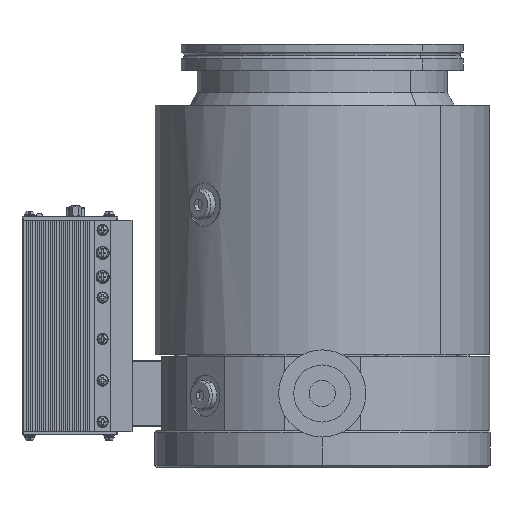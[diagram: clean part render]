
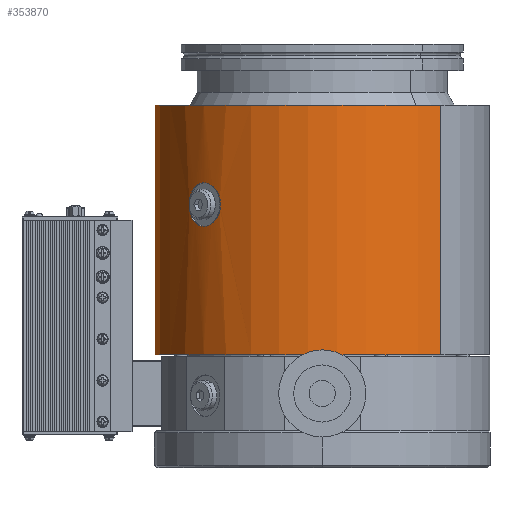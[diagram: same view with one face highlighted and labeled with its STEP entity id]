
A CAD part, left-side view. The second image highlights one B-rep face of the part: STEP entity #353870.
In plain terms, the highlighted cylindrical face has radius 77 mm (diameter 154 mm), a partial arc.
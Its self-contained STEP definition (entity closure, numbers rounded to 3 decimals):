
#334880=CARTESIAN_POINT('',(0.,0.,
-142.5));
#334890=DIRECTION('',(0.,0.,-1.));
#334900=DIRECTION('',(-1.,0.,0.));
#334910=AXIS2_PLACEMENT_3D('',#334880,#334890,#334900);
#334920=CIRCLE('',#334910,77.);
#334930=CARTESIAN_POINT('',(-77.,0.,
-142.5));
#334940=VERTEX_POINT('',#334930);
#334950=CARTESIAN_POINT('',(77.,0.,-142.5
));
#334960=VERTEX_POINT('',#334950);
#334990=EDGE_CURVE('',#334960,#334940,#334920,.T.);
#336090=CARTESIAN_POINT('',(-77.,0.,
-158.347));
#336100=DIRECTION('',(0.,0.,-1.));
#336110=VECTOR('',#336100,1.);
#336120=LINE('',#336090,#336110);
#336130=CARTESIAN_POINT('',(-77.,0.,
-28.));
#336140=VERTEX_POINT('',#336130);
#336150=EDGE_CURVE('',#336140,#334940,#336120,.T.);
#336180=CARTESIAN_POINT('',(77.,0.,
-158.347));
#336190=DIRECTION('',(0.,0.,-1.));
#336200=VECTOR('',#336190,1.);
#336210=LINE('',#336180,#336200);
#336220=CARTESIAN_POINT('',(77.,0.,
-28.));
#336230=VERTEX_POINT('',#336220);
#336240=EDGE_CURVE('',#336230,#334960,#336210,.T.);
#336260=CARTESIAN_POINT('',(0.,0.,
-28.));
#336270=DIRECTION('',(0.,0.,1.));
#336280=DIRECTION('',(1.,0.,0.));
#336290=AXIS2_PLACEMENT_3D('',#336260,#336270,#336280);
#336300=CIRCLE('',#336290,77.);
#336410=EDGE_CURVE('',#336140,#336230,#336300,.T.);
#336990=CARTESIAN_POINT('',(0.,-77.,
-83.5));
#337000=VERTEX_POINT('',#336990);
#337030=CARTESIAN_POINT('',(0.,-77.,
-63.5));
#337040=CARTESIAN_POINT('',(-0.746,-77.,-63.5))
;
#337050=CARTESIAN_POINT('',(-2.242,-76.978,
-63.668));
#337060=CARTESIAN_POINT('',(-4.377,-76.885,
-64.414));
#337070=CARTESIAN_POINT('',(-6.305,-76.748,
-65.629));
#337080=CARTESIAN_POINT('',(-7.89,-76.599,
-67.22));
#337090=CARTESIAN_POINT('',(-9.096,-76.463,
-69.144));
#337100=CARTESIAN_POINT('',(-9.836,-76.37,
-71.277));
#337110=CARTESIAN_POINT('',(-10.084,-76.337,
-73.523));
#337120=CARTESIAN_POINT('',(-9.829,-76.371,
-75.748));
#337130=CARTESIAN_POINT('',(-9.09,-76.464,
-77.868));
#337140=CARTESIAN_POINT('',(-7.883,-76.6,
-79.789));
#337150=CARTESIAN_POINT('',(-6.295,-76.749,
-81.378));
#337160=CARTESIAN_POINT('',(-4.364,-76.886,
-82.594));
#337170=CARTESIAN_POINT('',(-2.212,-76.979,
-83.339));
#337180=CARTESIAN_POINT('',(-0.734,-77.,-83.5))
;
#337190=CARTESIAN_POINT('',(0.,-77.,
-83.5));
#337200=B_SPLINE_CURVE_WITH_KNOTS('',3,(#337030,#337040,#337050,#337060,
#337070,#337080,#337090,#337100,#337110,#337120,#337130,#337140,#337150,
#337160,#337170,#337180,#337190),.UNSPECIFIED.,.F.,.F.,(4,1,1,1,1,1,1,1,
1,1,1,1,1,1,4),(0.,0.071,0.143,
0.214,0.286,0.357,0.429,
0.5,0.571,0.643,0.714,
0.786,0.857,0.929,1.),.UNSPECIFIED.)
;
#337210=CARTESIAN_POINT('',(0.,-77.,
-63.5));
#337220=VERTEX_POINT('',#337210);
#337230=EDGE_CURVE('',#337220,#337000,#337200,.T.);
#352880=CARTESIAN_POINT('',(0.,-77.,
-83.5));
#352890=CARTESIAN_POINT('',(0.742,-77.,-83.5));
#352900=CARTESIAN_POINT('',(2.227,-76.978,
-83.334));
#352910=CARTESIAN_POINT('',(4.345,-76.886,
-82.601));
#352920=CARTESIAN_POINT('',(6.274,-76.751,
-81.395));
#352930=CARTESIAN_POINT('',(7.855,-76.603,
-79.821));
#352940=CARTESIAN_POINT('',(9.066,-76.467,
-77.918));
#352950=CARTESIAN_POINT('',(9.823,-76.371,
-75.782));
#352960=CARTESIAN_POINT('',(10.084,-76.337,
-73.543));
#352970=CARTESIAN_POINT('',(9.842,-76.369,
-71.304));
#352980=CARTESIAN_POINT('',(9.104,-76.462,
-69.163));
#352990=CARTESIAN_POINT('',(7.914,-76.596,
-67.252));
#353000=CARTESIAN_POINT('',(6.333,-76.746,
-65.65));
#353010=CARTESIAN_POINT('',(4.392,-76.884,
-64.419));
#353020=CARTESIAN_POINT('',(2.242,-76.978,
-63.668));
#353030=CARTESIAN_POINT('',(0.745,-77.,-63.5));
#353040=CARTESIAN_POINT('',(0.,-77.,
-63.5));
#353050=B_SPLINE_CURVE_WITH_KNOTS('',3,(#352880,#352890,#352900,#352910,
#352920,#352930,#352940,#352950,#352960,#352970,#352980,#352990,#353000,
#353010,#353020,#353030,#353040),.UNSPECIFIED.,.F.,.F.,(4,1,1,1,1,1,1,1,
1,1,1,1,1,1,4),(0.,0.071,0.143,
0.214,0.286,0.357,0.429,
0.5,0.571,0.643,0.714,
0.786,0.857,0.929,1.),.UNSPECIFIED.)
;
#353060=EDGE_CURVE('',#337000,#337220,#353050,.T.);
#353720=CARTESIAN_POINT('',(0.,0.,-158.347));
#353730=DIRECTION('',(0.,0.,-1.));
#353740=DIRECTION('',(-1.,0.,0.));
#353750=AXIS2_PLACEMENT_3D('',#353720,#353730,#353740);
#353760=CYLINDRICAL_SURFACE('',#353750,77.);
#353770=ORIENTED_EDGE('',*,*,#336150,.T.);
#353780=ORIENTED_EDGE('',*,*,#336410,.F.);
#353790=ORIENTED_EDGE('',*,*,#336240,.F.);
#353800=ORIENTED_EDGE('',*,*,#334990,.F.);
#353810=EDGE_LOOP('',(#353800,#353790,#353780,#353770));
#353820=FACE_OUTER_BOUND('',#353810,.T.);
#353830=ORIENTED_EDGE('',*,*,#353060,.F.);
#353840=ORIENTED_EDGE('',*,*,#337230,.F.);
#353850=EDGE_LOOP('',(#353840,#353830));
#353860=FACE_BOUND('',#353850,.T.);
#353870=ADVANCED_FACE('',(#353820,#353860),#353760,.T.);
